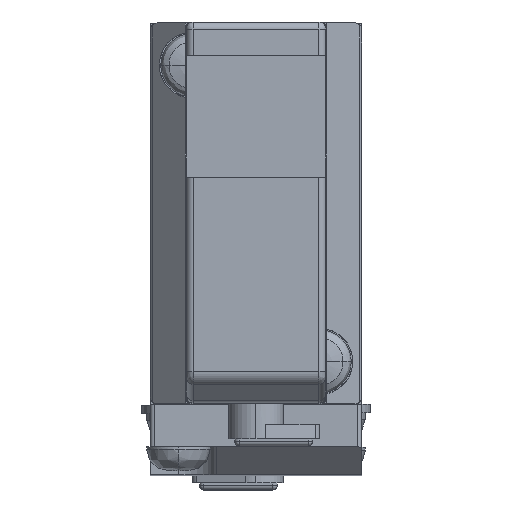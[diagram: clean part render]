
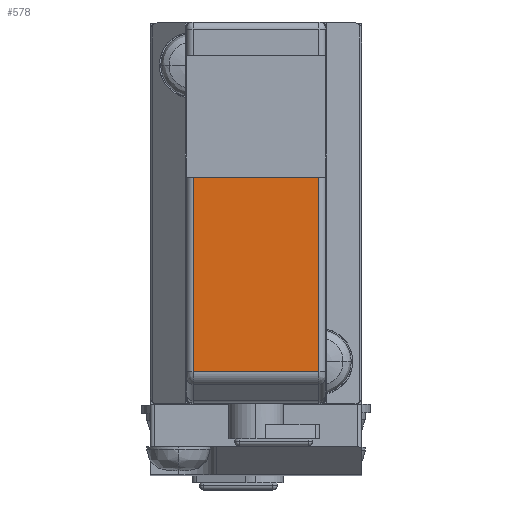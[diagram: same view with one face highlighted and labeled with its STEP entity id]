
A CAD part, top view. The second image highlights one B-rep face of the part: STEP entity #578.
In plain terms, the highlighted planar face has unit normal (0, 0, 1).
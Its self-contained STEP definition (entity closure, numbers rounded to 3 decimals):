
#578=ADVANCED_FACE('',(#3468),#3467,.F.);
#3467=PLANE('',#5768);
#3468=FACE_OUTER_BOUND('',#5769,.T.);
#5765=CARTESIAN_POINT('',(5.34,-26.133,27.4));
#5766=DIRECTION('',(0.,0.,-1.));
#5767=DIRECTION('',(-1.,0.,0.));
#5768=AXIS2_PLACEMENT_3D('',#5765,#5766,#5767);
#5769=EDGE_LOOP('',(#7509,#7510,#7511,#7512));
#7509=ORIENTED_EDGE('',*,*,#8342,.F.);
#7510=ORIENTED_EDGE('',*,*,#8399,.T.);
#7511=ORIENTED_EDGE('',*,*,#8487,.T.);
#7512=ORIENTED_EDGE('',*,*,#8422,.T.);
#8342=EDGE_CURVE('',#12331,#12338,#12339,.T.);
#8399=EDGE_CURVE('',#12331,#12720,#12727,.T.);
#8422=EDGE_CURVE('',#12858,#12338,#12877,.T.);
#8487=EDGE_CURVE('',#12720,#12858,#13303,.T.);
#12331=VERTEX_POINT('',#16316);
#12338=VERTEX_POINT('',#16321);
#12339=LINE('',#16322,#16323);
#12720=VERTEX_POINT('',#16560);
#12727=LINE('',#16565,#16566);
#12858=VERTEX_POINT('',#16648);
#12877=LINE('',#16661,#16662);
#13303=LINE('',#16906,#16907);
#16316=CARTESIAN_POINT('',(-4.45,-11.,27.4));
#16321=CARTESIAN_POINT('',(4.45,-11.,27.4));
#16322=CARTESIAN_POINT('',(-4.45,-11.,27.4));
#16323=VECTOR('',#16324,8.9);
#16324=DIRECTION('',(1.,0.,0.));
#16560=CARTESIAN_POINT('',(-4.45,-24.758,27.4));
#16565=CARTESIAN_POINT('',(-4.45,-11.,27.4));
#16566=VECTOR('',#16567,13.758);
#16567=DIRECTION('',(0.,-1.,0.));
#16648=CARTESIAN_POINT('',(4.45,-24.758,27.4));
#16661=CARTESIAN_POINT('',(4.45,-24.758,27.4));
#16662=VECTOR('',#16663,13.758);
#16663=DIRECTION('',(0.,1.,0.));
#16906=CARTESIAN_POINT('',(-4.45,-24.758,27.4));
#16907=VECTOR('',#16908,8.9);
#16908=DIRECTION('',(1.,0.,0.));
